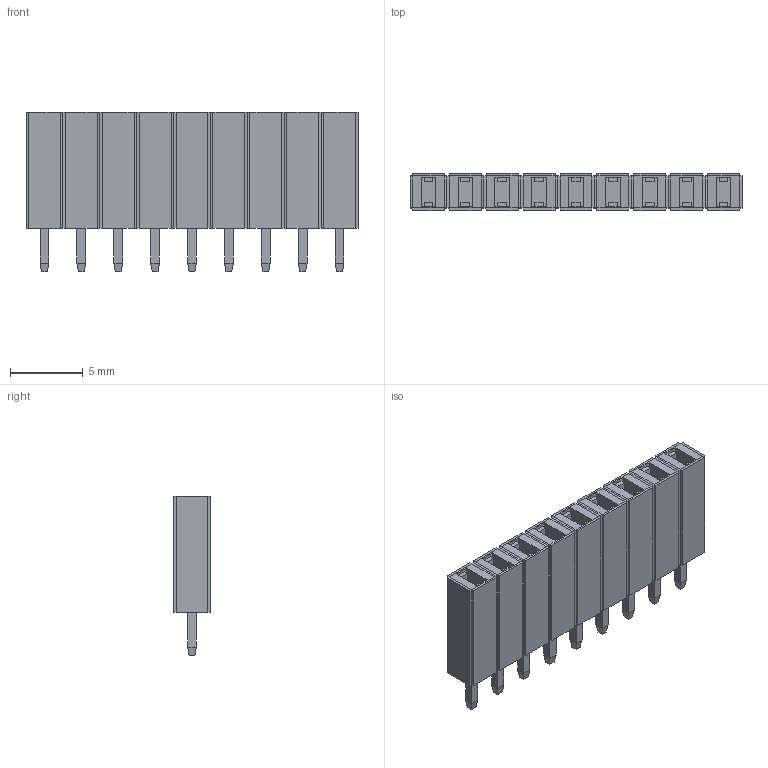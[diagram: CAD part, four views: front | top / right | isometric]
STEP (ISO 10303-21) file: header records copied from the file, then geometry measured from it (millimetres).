
FILE_DESCRIPTION(('FreeCAD Model'),'2;1');
FILE_NAME('Open CASCADE Shape Model','2021-06-28T20:10:19',('Author'),( ''),'Open CASCADE STEP processor 7.5','FreeCAD','Unknown');
FILE_SCHEMA(('AUTOMOTIVE_DESIGN { 1 0 10303 214 1 1 1 1 }'));
Length unit declared in the file: millimetre
Products named in the file (1): Group009
Bounding box: 22.86 x 2.54 x 11 mm (x, y, z)
Volume: 362.8 mm3; surface area: 1069.9 mm2
Topology: 1 solids, 1 shells, 380 faces, 868 edges, 508 vertices
Faces by surface type: plane 380
Entity records: 23325 total; most frequent: CARTESIAN_POINT 3745, DIRECTION 3114, LINE 2352, VECTOR 2352, ORIENTED_EDGE 1736, PCURVE 1736, DEFINITIONAL_REPRESENTATION 1736, EDGE_CURVE 868
